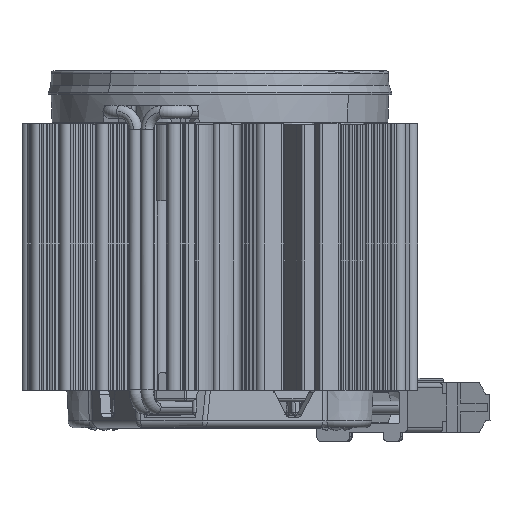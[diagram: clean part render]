
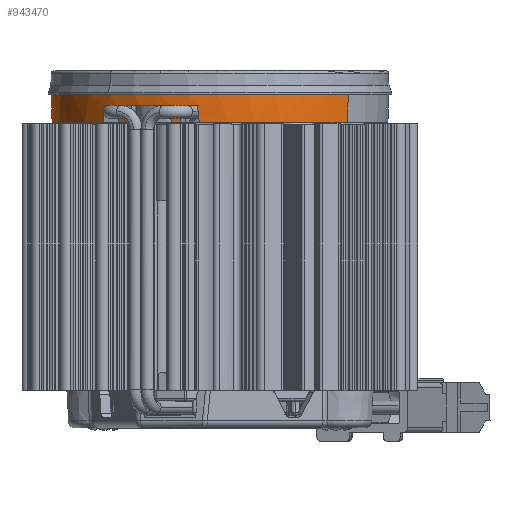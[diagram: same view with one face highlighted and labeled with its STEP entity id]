
A CAD part, front view. The second image highlights one B-rep face of the part: STEP entity #943470.
In plain terms, the highlighted conical face has half-angle 2 degrees and reference radius 19 mm.
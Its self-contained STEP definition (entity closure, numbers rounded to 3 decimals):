
#731600=CARTESIAN_POINT('',(-18.844,0.1,
1.109));
#731610=VERTEX_POINT('',#731600);
#731640=CARTESIAN_POINT('',(0.,0.1,
0.));
#731650=DIRECTION('',(0.,1.,0.));
#731660=DIRECTION('',(0.,0.,-1.));
#731670=AXIS2_PLACEMENT_3D('',#731640,#731650,#731660);
#731680=CIRCLE('',#731670,18.877);
#731690=CARTESIAN_POINT('',(-18.757,0.1,
2.122));
#731700=VERTEX_POINT('',#731690);
#731710=EDGE_CURVE('',#731610,#731700,#731680,.T.);
#732300=CARTESIAN_POINT('',(-17.282,0.1,
7.594));
#732310=VERTEX_POINT('',#732300);
#732340=CARTESIAN_POINT('',(0.,0.1,
0.));
#732350=DIRECTION('',(0.,1.,0.));
#732360=DIRECTION('',(0.,0.,-1.));
#732370=AXIS2_PLACEMENT_3D('',#732340,#732350,#732360);
#732380=CIRCLE('',#732370,18.877);
#732390=CARTESIAN_POINT('',(-16.848,0.1,
8.513));
#732400=VERTEX_POINT('',#732390);
#732410=EDGE_CURVE('',#732310,#732400,#732380,.T.);
#800860=CARTESIAN_POINT('',(-15.739,0.1,
10.422));
#800870=VERTEX_POINT('',#800860);
#800900=CARTESIAN_POINT('',(0.,0.1,
0.));
#800910=DIRECTION('',(0.,1.,0.));
#800920=DIRECTION('',(0.,0.,-1.));
#800930=AXIS2_PLACEMENT_3D('',#800900,#800910,#800920);
#800940=CIRCLE('',#800930,18.877);
#800950=CARTESIAN_POINT('',(0.,0.1,
18.877));
#800960=VERTEX_POINT('',#800950);
#800970=EDGE_CURVE('',#800870,#800960,#800940,.T.);
#800990=CARTESIAN_POINT('',(0.,0.1,
-18.877));
#801000=VERTEX_POINT('',#800990);
#801030=CARTESIAN_POINT('',(-18.844,0.1,
-1.119));
#801040=VERTEX_POINT('',#801030);
#801050=EDGE_CURVE('',#801000,#801040,#800940,.T.);
#894370=CARTESIAN_POINT('',(-15.902,2.,
10.294));
#894380=VERTEX_POINT('',#894370);
#894410=CARTESIAN_POINT('',(-2.627,183.66,
-9.745));
#894420=DIRECTION('',(-0.259,-0.087,
-0.962));
#894430=DIRECTION('',(-0.023,0.996,
-0.084));
#894440=AXIS2_PLACEMENT_3D('',#894410,#894420,#894430);
#894450=ELLIPSE('',#894440,290.135,23.185);
#894460=EDGE_CURVE('',#800870,#894380,#894450,.T.);
#938490=CARTESIAN_POINT('',(-18.802,2.,
2.306));
#938500=VERTEX_POINT('',#938490);
#938530=CARTESIAN_POINT('',(0.,2.,
0.));
#938540=DIRECTION('',(0.,1.,0.));
#938550=DIRECTION('',(0.,0.,-1.));
#938560=AXIS2_PLACEMENT_3D('',#938530,#938540,#938550);
#938570=CIRCLE('',#938560,18.943);
#938580=CARTESIAN_POINT('',(-17.414,2.,
7.457));
#938590=VERTEX_POINT('',#938580);
#938600=EDGE_CURVE('',#938500,#938590,#938570,.T.);
#939290=CARTESIAN_POINT('',(-2.473,141.071,
-9.172));
#939300=DIRECTION('',(0.259,0.087,
0.962));
#939310=DIRECTION('',(-0.023,0.996,
-0.084));
#939320=AXIS2_PLACEMENT_3D('',#939290,#939300,#939310);
#939330=ELLIPSE('',#939320,273.071,21.822);
#939340=EDGE_CURVE('',#938590,#732310,#939330,.T.);
#941960=CARTESIAN_POINT('',(2.628,183.921,
9.749));
#941970=DIRECTION('',(0.259,-0.087,
0.962));
#941980=DIRECTION('',(0.023,0.996,
0.084));
#941990=AXIS2_PLACEMENT_3D('',#941960,#941970,#941980);
#942000=ELLIPSE('',#941990,290.24,23.194);
#942010=CARTESIAN_POINT('',(-18.921,2.,
-0.926));
#942020=VERTEX_POINT('',#942010);
#942030=EDGE_CURVE('',#942020,#801040,#942000,.T.);
#942460=CARTESIAN_POINT('',(-18.919,2.,
0.957));
#942470=VERTEX_POINT('',#942460);
#942500=CARTESIAN_POINT('',(-2.144,50.418,
-7.952));
#942510=DIRECTION('',(-0.259,-0.087,
-0.962));
#942520=DIRECTION('',(-0.023,0.996,
-0.084));
#942530=AXIS2_PLACEMENT_3D('',#942500,#942510,#942520);
#942540=ELLIPSE('',#942530,236.749,18.919);
#942550=EDGE_CURVE('',#731610,#942470,#942540,.T.);
#942620=CARTESIAN_POINT('',(0.,2.,
0.));
#942630=DIRECTION('',(0.,1.,0.));
#942640=DIRECTION('',(0.,0.,-1.));
#942650=AXIS2_PLACEMENT_3D('',#942620,#942630,#942640);
#942660=CIRCLE('',#942650,18.943);
#942670=EDGE_CURVE('',#942020,#942470,#942660,.T.);
#942810=CARTESIAN_POINT('',(0.,3.623,
0.));
#942820=DIRECTION('',(0.,1.,0.));
#942830=DIRECTION('',(0.,0.,-1.));
#942840=AXIS2_PLACEMENT_3D('',#942810,#942820,#942830);
#942850=CONICAL_SURFACE('',#942840,19.,0.035);
#942860=CARTESIAN_POINT('',(0.,3.623,
-19.));
#942870=DIRECTION('',(0.,0.999,
-0.035));
#942880=VECTOR('',#942870,544.418);
#942890=LINE('',#942860,#942880);
#942900=CARTESIAN_POINT('',(0.,3.194,
-18.985));
#942910=VERTEX_POINT('',#942900);
#942920=EDGE_CURVE('',#801000,#942910,#942890,.T.);
#942930=ORIENTED_EDGE('',*,*,#942920,.F.);
#942940=CARTESIAN_POINT('',(0.,3.194,
0.));
#942950=DIRECTION('',(0.,1.,0.));
#942960=DIRECTION('',(0.,0.,-1.));
#942970=AXIS2_PLACEMENT_3D('',#942940,#942950,#942960);
#942980=CIRCLE('',#942970,18.985);
#942990=CARTESIAN_POINT('',(-18.985,3.194,
0.));
#943000=VERTEX_POINT('',#942990);
#943010=EDGE_CURVE('',#942910,#943000,#942980,.T.);
#943020=ORIENTED_EDGE('',*,*,#943010,.F.);
#943030=CARTESIAN_POINT('',(-14.543,3.194,
12.203));
#943040=VERTEX_POINT('',#943030);
#943050=EDGE_CURVE('',#943000,#943040,#942980,.T.);
#943060=ORIENTED_EDGE('',*,*,#943050,.F.);
#943070=CARTESIAN_POINT('',(0.,3.194,
18.985));
#943080=VERTEX_POINT('',#943070);
#943090=EDGE_CURVE('',#943040,#943080,#942980,.T.);
#943100=ORIENTED_EDGE('',*,*,#943090,.F.);
#943110=CARTESIAN_POINT('',(0.,3.623,
19.));
#943120=DIRECTION('',(0.,0.999,
0.035));
#943130=VECTOR('',#943120,544.418);
#943140=LINE('',#943110,#943130);
#943150=EDGE_CURVE('',#800960,#943080,#943140,.T.);
#943160=ORIENTED_EDGE('',*,*,#943150,.T.);
#943170=ORIENTED_EDGE('',*,*,#800970,.T.);
#943180=ORIENTED_EDGE('',*,*,#894460,.F.);
#943190=CARTESIAN_POINT('',(-16.837,2.,8.682));
#943200=VERTEX_POINT('',#943190);
#943210=EDGE_CURVE('',#943200,#894380,#942660,.T.);
#943220=ORIENTED_EDGE('',*,*,#943210,.T.);
#943230=CARTESIAN_POINT('',(2.144,50.418,
7.952));
#943240=DIRECTION('',(0.259,-0.087,
0.962));
#943250=DIRECTION('',(0.023,0.996,
0.084));
#943260=AXIS2_PLACEMENT_3D('',#943230,#943240,#943250);
#943270=ELLIPSE('',#943260,236.749,18.919);
#943280=EDGE_CURVE('',#943200,#732400,#943270,.T.);
#943290=ORIENTED_EDGE('',*,*,#943280,.F.);
#943300=ORIENTED_EDGE('',*,*,#732410,.T.);
#943310=ORIENTED_EDGE('',*,*,#939340,.T.);
#943320=ORIENTED_EDGE('',*,*,#938600,.T.);
#943330=CARTESIAN_POINT('',(2.473,141.071,
9.172));
#943340=DIRECTION('',(-0.259,0.087,
-0.962));
#943350=DIRECTION('',(0.023,0.996,
0.084));
#943360=AXIS2_PLACEMENT_3D('',#943330,#943340,#943350);
#943370=ELLIPSE('',#943360,273.071,21.822);
#943380=EDGE_CURVE('',#731700,#938500,#943370,.T.);
#943390=ORIENTED_EDGE('',*,*,#943380,.T.);
#943400=ORIENTED_EDGE('',*,*,#731710,.T.);
#943410=ORIENTED_EDGE('',*,*,#942550,.F.);
#943420=ORIENTED_EDGE('',*,*,#942670,.T.);
#943430=ORIENTED_EDGE('',*,*,#942030,.F.);
#943440=ORIENTED_EDGE('',*,*,#801050,.T.);
#943450=EDGE_LOOP('',(#943440,#943430,#943420,#943410,#943400,#943390,
#943320,#943310,#943300,#943290,#943220,#943180,#943170,#943160,#943100,
#943060,#943020,#942930));
#943460=FACE_OUTER_BOUND('',#943450,.T.);
#943470=ADVANCED_FACE('',(#943460),#942850,.T.);
